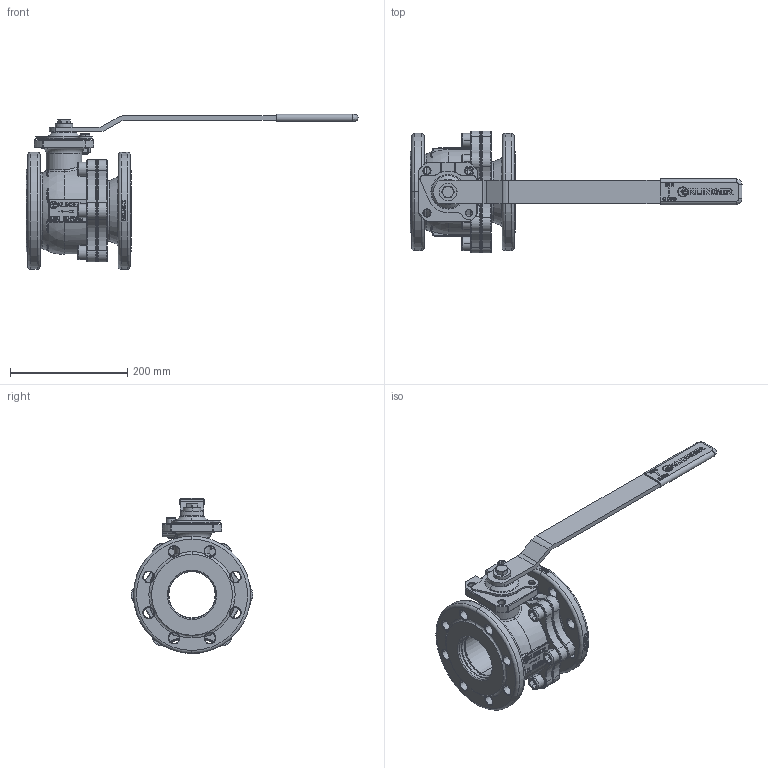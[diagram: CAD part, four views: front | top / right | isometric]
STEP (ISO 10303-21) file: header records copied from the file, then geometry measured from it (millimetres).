
FILE_DESCRIPTION((''),'2;1');
FILE_NAME('KHEFK080VFK080P040PKK','2015-08-07T',('mahrhauserh'),('RAND'),'PRO/ENGINEER BY PARAMETRIC TECHNOLOGY CORPORATION, 2013410','PRO/ENGINEER BY PARAMETRIC TECHNOLOGY CORPORATION, 2013410','');
FILE_SCHEMA(('CONFIG_CONTROL_DESIGN'));
Products named in the file (1): KHEFK080VFK080P040PKK
Bounding box: 567 x 207.88 x 265.2 mm (x, y, z)
Volume: 2991606.9 mm3; surface area: 539283.7 mm2
Topology: 1 solids, 1 shells, 2883 faces, 7764 edges, 4991 vertices
Faces by surface type: plane 1978, cylinder 380, torus 275, cone 120, bspline 116, sphere 14
Entity records: 112135 total; most frequent: CARTESIAN_POINT 40766, ORIENTED_EDGE 15500, DIRECTION 13984, EDGE_CURVE 7750, VECTOR 5016, LINE 5016, VERTEX_POINT 4991, AXIS2_PLACEMENT_3D 4484
